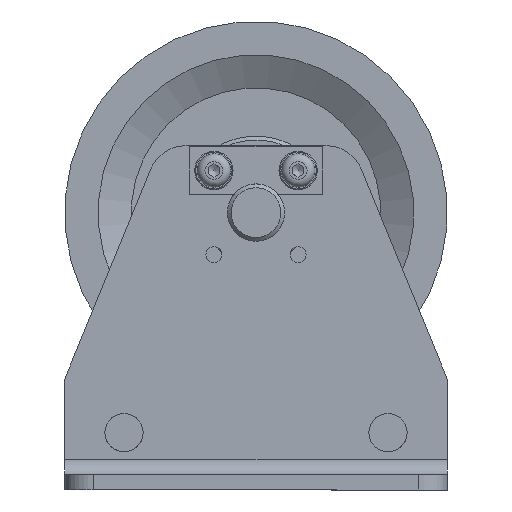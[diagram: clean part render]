
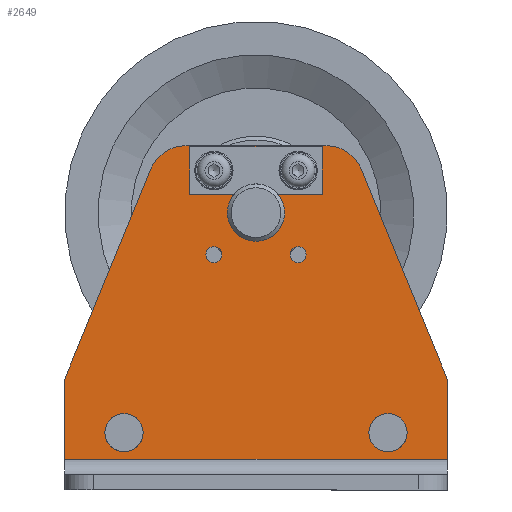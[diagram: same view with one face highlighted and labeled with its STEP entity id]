
A CAD part, front view. The second image highlights one B-rep face of the part: STEP entity #2649.
In plain terms, the highlighted planar face has unit normal (0, -1, 0) as drawn and (0, 0, 1) by its records, which use the part's own axes.
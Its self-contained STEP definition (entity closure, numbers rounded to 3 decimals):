
#208=FACE_BOUND('',#496,.T.);
#209=FACE_BOUND('',#497,.T.);
#210=FACE_BOUND('',#498,.T.);
#211=FACE_BOUND('',#499,.T.);
#212=FACE_BOUND('',#500,.T.);
#213=FACE_BOUND('',#501,.T.);
#214=FACE_BOUND('',#502,.T.);
#260=PLANE('',#3145);
#340=FACE_OUTER_BOUND('',#495,.T.);
#495=EDGE_LOOP('',(#1946,#1947,#1948,#1949,#1950,#1951,#1952,#1953));
#496=EDGE_LOOP('',(#1954,#1955));
#497=EDGE_LOOP('',(#1956,#1957));
#498=EDGE_LOOP('',(#1958,#1959));
#499=EDGE_LOOP('',(#1960,#1961));
#500=EDGE_LOOP('',(#1962));
#501=EDGE_LOOP('',(#1963));
#502=EDGE_LOOP('',(#1964));
#673=LINE('',#4622,#794);
#676=LINE('',#4628,#797);
#684=LINE('',#4662,#805);
#688=LINE('',#4671,#809);
#691=LINE('',#4678,#812);
#692=LINE('',#4680,#813);
#794=VECTOR('',#3633,10.);
#797=VECTOR('',#3638,10.);
#805=VECTOR('',#3672,10.);
#809=VECTOR('',#3682,10.);
#812=VECTOR('',#3691,10.);
#813=VECTOR('',#3694,10.);
#892=CIRCLE('',#3082,4.188);
#893=CIRCLE('',#3083,4.188);
#895=CIRCLE('',#3086,4.188);
#896=CIRCLE('',#3087,4.188);
#898=CIRCLE('',#3090,4.188);
#899=CIRCLE('',#3091,4.188);
#901=CIRCLE('',#3094,4.188);
#902=CIRCLE('',#3095,4.188);
#923=CIRCLE('',#3132,10.);
#924=CIRCLE('',#3134,10.);
#925=CIRCLE('',#3136,15.);
#926=CIRCLE('',#3139,20.);
#927=CIRCLE('',#3142,20.);
#1147=VERTEX_POINT('',#4523);
#1148=VERTEX_POINT('',#4524);
#1150=VERTEX_POINT('',#4531);
#1151=VERTEX_POINT('',#4532);
#1153=VERTEX_POINT('',#4539);
#1154=VERTEX_POINT('',#4540);
#1156=VERTEX_POINT('',#4547);
#1157=VERTEX_POINT('',#4548);
#1179=VERTEX_POINT('',#4613);
#1180=VERTEX_POINT('',#4617);
#1182=VERTEX_POINT('',#4626);
#1191=VERTEX_POINT('',#4648);
#1192=VERTEX_POINT('',#4652);
#1193=VERTEX_POINT('',#4656);
#1194=VERTEX_POINT('',#4660);
#1195=VERTEX_POINT('',#4661);
#1196=VERTEX_POINT('',#4666);
#1197=VERTEX_POINT('',#4670);
#1198=VERTEX_POINT('',#4674);
#1424=EDGE_CURVE('',#1147,#1148,#892,.T.);
#1425=EDGE_CURVE('',#1148,#1147,#893,.T.);
#1428=EDGE_CURVE('',#1150,#1151,#895,.T.);
#1429=EDGE_CURVE('',#1151,#1150,#896,.T.);
#1432=EDGE_CURVE('',#1153,#1154,#898,.T.);
#1433=EDGE_CURVE('',#1154,#1153,#899,.T.);
#1436=EDGE_CURVE('',#1156,#1157,#901,.T.);
#1437=EDGE_CURVE('',#1157,#1156,#902,.T.);
#1473=EDGE_CURVE('',#1179,#1180,#673,.T.);
#1476=EDGE_CURVE('',#1182,#1180,#676,.T.);
#1487=EDGE_CURVE('',#1191,#1191,#923,.T.);
#1489=EDGE_CURVE('',#1192,#1192,#924,.T.);
#1491=EDGE_CURVE('',#1193,#1193,#925,.T.);
#1492=EDGE_CURVE('',#1194,#1195,#684,.T.);
#1495=EDGE_CURVE('',#1195,#1196,#926,.T.);
#1497=EDGE_CURVE('',#1196,#1197,#688,.T.);
#1499=EDGE_CURVE('',#1197,#1198,#927,.T.);
#1501=EDGE_CURVE('',#1198,#1182,#691,.T.);
#1502=EDGE_CURVE('',#1179,#1194,#692,.T.);
#1946=ORIENTED_EDGE('',*,*,#1473,.T.);
#1947=ORIENTED_EDGE('',*,*,#1476,.F.);
#1948=ORIENTED_EDGE('',*,*,#1501,.F.);
#1949=ORIENTED_EDGE('',*,*,#1499,.F.);
#1950=ORIENTED_EDGE('',*,*,#1497,.F.);
#1951=ORIENTED_EDGE('',*,*,#1495,.F.);
#1952=ORIENTED_EDGE('',*,*,#1492,.F.);
#1953=ORIENTED_EDGE('',*,*,#1502,.F.);
#1954=ORIENTED_EDGE('',*,*,#1424,.T.);
#1955=ORIENTED_EDGE('',*,*,#1425,.T.);
#1956=ORIENTED_EDGE('',*,*,#1428,.T.);
#1957=ORIENTED_EDGE('',*,*,#1429,.T.);
#1958=ORIENTED_EDGE('',*,*,#1432,.T.);
#1959=ORIENTED_EDGE('',*,*,#1433,.T.);
#1960=ORIENTED_EDGE('',*,*,#1436,.T.);
#1961=ORIENTED_EDGE('',*,*,#1437,.T.);
#1962=ORIENTED_EDGE('',*,*,#1487,.T.);
#1963=ORIENTED_EDGE('',*,*,#1489,.T.);
#1964=ORIENTED_EDGE('',*,*,#1491,.T.);
#2649=ADVANCED_FACE('',(#340,#208,#209,#210,#211,#212,#213,#214),#260,.T.);
#3082=AXIS2_PLACEMENT_3D('',#4525,#3526,#3527);
#3083=AXIS2_PLACEMENT_3D('',#4526,#3528,#3529);
#3086=AXIS2_PLACEMENT_3D('',#4533,#3535,#3536);
#3087=AXIS2_PLACEMENT_3D('',#4534,#3537,#3538);
#3090=AXIS2_PLACEMENT_3D('',#4541,#3544,#3545);
#3091=AXIS2_PLACEMENT_3D('',#4542,#3546,#3547);
#3094=AXIS2_PLACEMENT_3D('',#4549,#3553,#3554);
#3095=AXIS2_PLACEMENT_3D('',#4550,#3555,#3556);
#3132=AXIS2_PLACEMENT_3D('',#4650,#3658,#3659);
#3134=AXIS2_PLACEMENT_3D('',#4654,#3663,#3664);
#3136=AXIS2_PLACEMENT_3D('',#4658,#3668,#3669);
#3139=AXIS2_PLACEMENT_3D('',#4667,#3677,#3678);
#3142=AXIS2_PLACEMENT_3D('',#4675,#3686,#3687);
#3145=AXIS2_PLACEMENT_3D('',#4681,#3695,#3696);
#3526=DIRECTION('center_axis',(0.,0.,-1.));
#3527=DIRECTION('ref_axis',(1.,0.,0.));
#3528=DIRECTION('center_axis',(0.,0.,-1.));
#3529=DIRECTION('ref_axis',(1.,0.,0.));
#3535=DIRECTION('center_axis',(0.,0.,-1.));
#3536=DIRECTION('ref_axis',(1.,0.,0.));
#3537=DIRECTION('center_axis',(0.,0.,-1.));
#3538=DIRECTION('ref_axis',(1.,0.,0.));
#3544=DIRECTION('center_axis',(0.,0.,-1.));
#3545=DIRECTION('ref_axis',(1.,0.,0.));
#3546=DIRECTION('center_axis',(0.,0.,-1.));
#3547=DIRECTION('ref_axis',(1.,0.,0.));
#3553=DIRECTION('center_axis',(0.,0.,-1.));
#3554=DIRECTION('ref_axis',(1.,0.,0.));
#3555=DIRECTION('center_axis',(0.,0.,-1.));
#3556=DIRECTION('ref_axis',(1.,0.,0.));
#3633=DIRECTION('',(1.,0.,0.));
#3638=DIRECTION('',(0.,-1.,0.));
#3658=DIRECTION('center_axis',(0.,0.,-1.));
#3659=DIRECTION('ref_axis',(-1.,0.,0.));
#3663=DIRECTION('center_axis',(0.,0.,-1.));
#3664=DIRECTION('ref_axis',(-1.,0.,0.));
#3668=DIRECTION('center_axis',(0.,0.,-1.));
#3669=DIRECTION('ref_axis',(-1.,0.,0.));
#3672=DIRECTION('',(0.379,0.925,0.));
#3677=DIRECTION('center_axis',(0.,0.,-1.));
#3678=DIRECTION('ref_axis',(0.,1.,0.));
#3682=DIRECTION('',(1.,0.,0.));
#3686=DIRECTION('center_axis',(0.,0.,-1.));
#3687=DIRECTION('ref_axis',(0.925,0.379,0.));
#3691=DIRECTION('',(0.379,-0.925,0.));
#3694=DIRECTION('',(0.,1.,0.));
#3695=DIRECTION('center_axis',(0.,0.,1.));
#3696=DIRECTION('ref_axis',(1.,0.,0.));
#4523=CARTESIAN_POINT('',(-17.812,123.,8.));
#4524=CARTESIAN_POINT('',(-26.188,123.,8.));
#4525=CARTESIAN_POINT('Origin',(-22.,123.,8.));
#4526=CARTESIAN_POINT('Origin',(-22.,123.,8.));
#4531=CARTESIAN_POINT('',(26.188,123.,8.));
#4532=CARTESIAN_POINT('',(17.812,123.,8.));
#4533=CARTESIAN_POINT('Origin',(22.,123.,8.));
#4534=CARTESIAN_POINT('Origin',(22.,123.,8.));
#4539=CARTESIAN_POINT('',(-17.812,167.,8.));
#4540=CARTESIAN_POINT('',(-26.188,167.,8.));
#4541=CARTESIAN_POINT('Origin',(-22.,167.,8.));
#4542=CARTESIAN_POINT('Origin',(-22.,167.,8.));
#4547=CARTESIAN_POINT('',(26.188,167.,8.));
#4548=CARTESIAN_POINT('',(17.812,167.,8.));
#4549=CARTESIAN_POINT('Origin',(22.,167.,8.));
#4550=CARTESIAN_POINT('Origin',(22.,167.,8.));
#4613=CARTESIAN_POINT('',(-100.,16.,8.));
#4617=CARTESIAN_POINT('',(100.,16.,8.));
#4622=CARTESIAN_POINT('',(50.,16.,8.));
#4626=CARTESIAN_POINT('',(100.,58.,8.));
#4628=CARTESIAN_POINT('',(100.,0.,8.));
#4648=CARTESIAN_POINT('',(79.,30.,8.));
#4650=CARTESIAN_POINT('Origin',(69.,30.,8.));
#4652=CARTESIAN_POINT('',(-59.,30.,8.));
#4654=CARTESIAN_POINT('Origin',(-69.,30.,8.));
#4656=CARTESIAN_POINT('',(15.,145.,8.));
#4658=CARTESIAN_POINT('Origin',(0.,145.,8.));
#4660=CARTESIAN_POINT('',(-100.,58.,8.));
#4661=CARTESIAN_POINT('',(-55.088,167.584,8.));
#4662=CARTESIAN_POINT('',(-55.088,167.584,8.));
#4666=CARTESIAN_POINT('',(-36.582,180.,8.));
#4667=CARTESIAN_POINT('Origin',(-36.582,160.,8.));
#4670=CARTESIAN_POINT('',(36.582,180.,8.));
#4671=CARTESIAN_POINT('',(36.582,180.,8.));
#4674=CARTESIAN_POINT('',(55.088,167.584,8.));
#4675=CARTESIAN_POINT('Origin',(36.582,160.,8.));
#4678=CARTESIAN_POINT('',(100.,58.,8.));
#4680=CARTESIAN_POINT('',(-100.,58.,8.));
#4681=CARTESIAN_POINT('Origin',(0.,76.556,8.));
